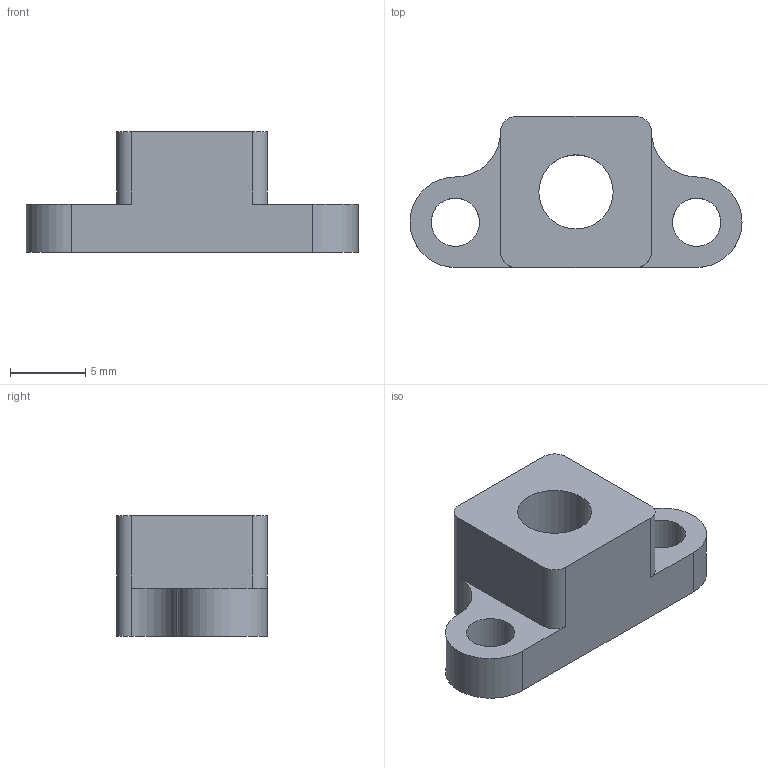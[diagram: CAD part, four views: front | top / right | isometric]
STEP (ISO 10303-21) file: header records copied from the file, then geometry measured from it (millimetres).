
FILE_DESCRIPTION(/* description */ ('Tripod-Adapter M6'),/* implementation_level */ '2;1');
FILE_NAME(/* name */ 'KSM_308-24-01-00-02_TripodAdapter M6.stp',/* time_stamp */ '2026-06-21T22:25:55+02:00',/* author */ ('khw'),/* organization */ ('TIS/ Germany'),/* preprocessor_version */ 'ST-DEVELOPER v20',/* originating_system */ 'Autodesk Inventor 2025',/* authorisation */ '6767,5 mm^3');
FILE_SCHEMA (('AUTOMOTIVE_DESIGN { 1 0 10303 214 3 1 1 }'));
Length unit declared in the file: millimetre
Products named in the file (1): KSM_308-24-01-00-02_TripodAdapter M6
Bounding box: 22 x 10 x 8 mm (x, y, z)
Volume: 809.2 mm3; surface area: 814.3 mm2
Topology: 1 solids, 1 shells, 19 faces, 49 edges, 32 vertices
Faces by surface type: cylinder 11, plane 8
Full cylindrical faces by diameter (mm): 3.2 x2, 4.917 x1
Entity records: 644 total; most frequent: DIRECTION 111, CARTESIAN_POINT 101, ORIENTED_EDGE 98, EDGE_CURVE 49, AXIS2_PLACEMENT_3D 42, VERTEX_POINT 32, LINE 27, VECTOR 27
